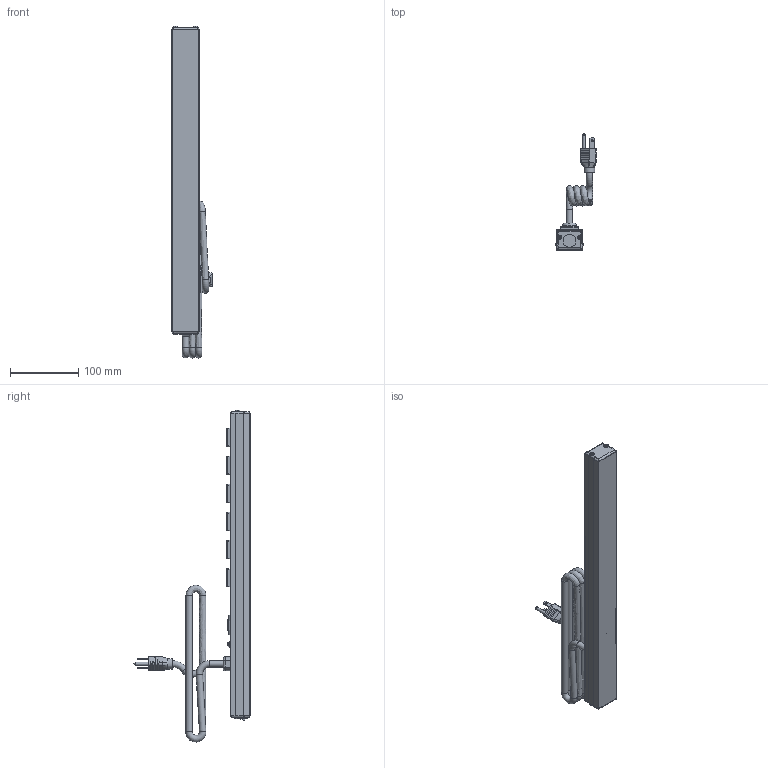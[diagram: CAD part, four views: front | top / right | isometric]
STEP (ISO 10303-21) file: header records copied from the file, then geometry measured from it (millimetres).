
FILE_DESCRIPTION((''),'2;1');
FILE_NAME('E:\Dutton\Manufacturing\drawings\Updated 2009\Vertical Rack Mount Strips\1585 Series\STEP''s\15851H6A1.stp','2010-01-19T07:33:00',('tfoster'),(''),'Autodesk Inventor 2010','Autodesk Inventor 2010','');
FILE_SCHEMA(('AUTOMOTIVE_DESIGN { 1 0 10303 214 1 1 1 1 }'));
Products named in the file (14): 15851H6A1; 15851H6 top; 15851 bottom; End Cap; End Cap w breaker; Reset Switch; #6 - 0.375 Type A screw; Cored 2; toothwasher; round head 1-way 8-32 x 0.5 screw; Power Switch Assembly; Power Switch; Power Switch pt; Receptacle
Assembly tree (21 placements, depth 3):
  15851H6A1
    15851H6 top
    15851 bottom
    End Cap
    End Cap w breaker
    Reset Switch
    #6 - 0.375 Type A screw  x4
    Cored 2
    toothwasher
    round head 1-way 8-32 x 0.5 screw
    Power Switch Assembly
      Power Switch
      Power Switch pt
    Receptacle  x6
Bounding box: 60.19 x 170.82 x 488.07 mm (x, y, z)
Volume: 310636.2 mm3; surface area: 226766.9 mm2
Topology: 20 solids, 20 shells, 1017 faces, 2978 edges, 2003 vertices
Faces by surface type: plane 588, cylinder 222, bspline 139, sphere 30, cone 23, torus 15
Full cylindrical faces by diameter (mm): 1 x2, 1.803 x3, 1.905 x2, 3 x2, 3.175 x12, 4.3 x1, 4.775 x1, 4.826 x1, 7.849 x1, 9.5 x5, 11 x1, 15.621 x1, 19.05 x2
Entity records: 26917 total; most frequent: CARTESIAN_POINT 9654, ORIENTED_EDGE 3740, DIRECTION 3085, EDGE_CURVE 1870, VERTEX_POINT 1320, VECTOR 1077, LINE 1077, AXIS2_PLACEMENT_3D 1004
